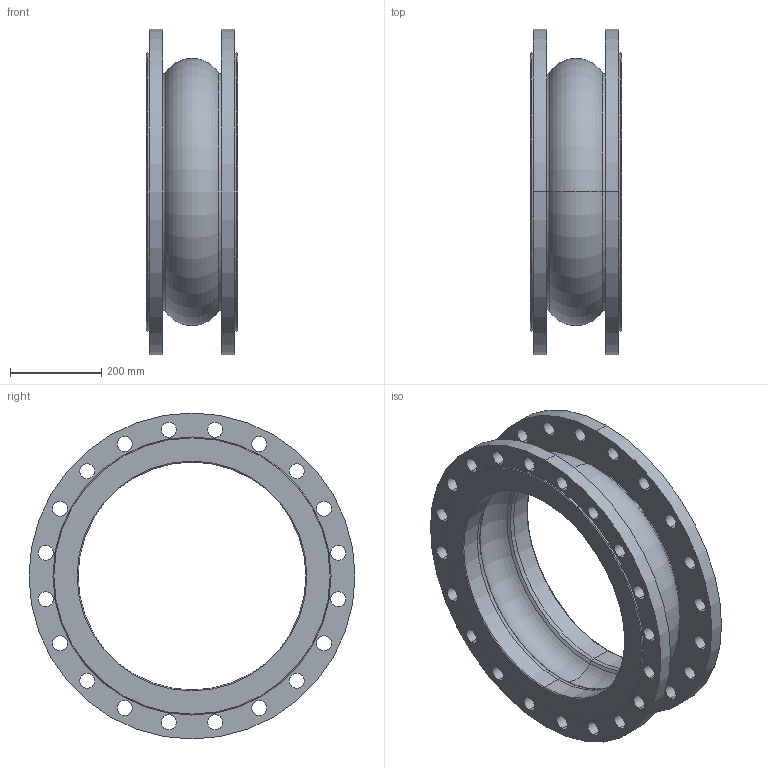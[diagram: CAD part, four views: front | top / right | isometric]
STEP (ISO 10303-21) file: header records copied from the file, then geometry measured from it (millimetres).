
FILE_DESCRIPTION (( 'STEP AP203' ), '1' );
FILE_NAME ('F8_PN16_DN500.STEP', '2012-10-31T08:46:53', ( 'luca.saino' ), ( 'Hewlett-Packard Company' ), 'SwSTEP 2.0', 'SolidWorks 2012', '' );
FILE_SCHEMA (( 'CONFIG_CONTROL_DESIGN' ));
Length unit declared in the file: millimetre
Products named in the file (1): F8_PN16_DN500
Bounding box: 200 x 715 x 715 mm (x, y, z)
Volume: 16053720.9 mm3; surface area: 1670391.2 mm2
Topology: 1 solids, 1 shells, 122 faces, 324 edges, 208 vertices
Faces by surface type: cylinder 92, torus 16, cone 8, plane 6
Entity records: 4141 total; most frequent: DIRECTION 794, CARTESIAN_POINT 655, ORIENTED_EDGE 648, AXIS2_PLACEMENT_3D 347, EDGE_CURVE 324, CIRCLE 224, EDGE_LOOP 208, VERTEX_POINT 208
